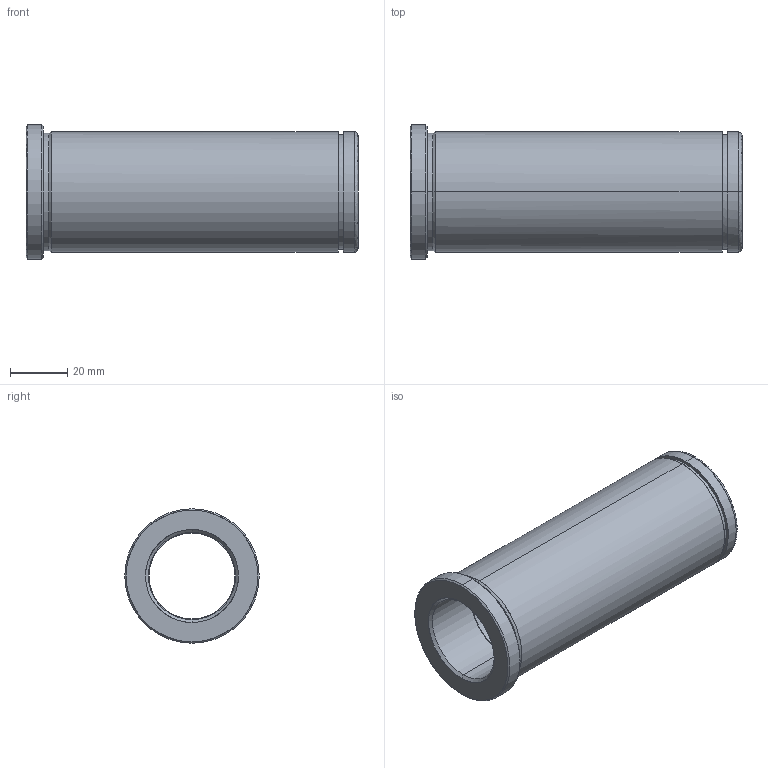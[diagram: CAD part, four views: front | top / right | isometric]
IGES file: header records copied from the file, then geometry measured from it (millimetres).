
Start section: START RECORD GO HERE.
Global section: file name: 553-30X116.igs; native system: DASSAULT SYSTEMES CATIA V5 R20 - www.3ds.com; preprocessor: CATIA Version 5 Release 20 ; author: Utente; organization: NB04-ASUS; date: 20210526.202020; units: millimetre
Bounding box: 116 x 47 x 47 mm (x, y, z)
Surface area: 28432.5 mm2 (no closed solid volume)
Topology: 0 solids, 0 shells, 32 faces, 204 edges, 204 vertices
Faces by surface type: revolution 26, plane 6
